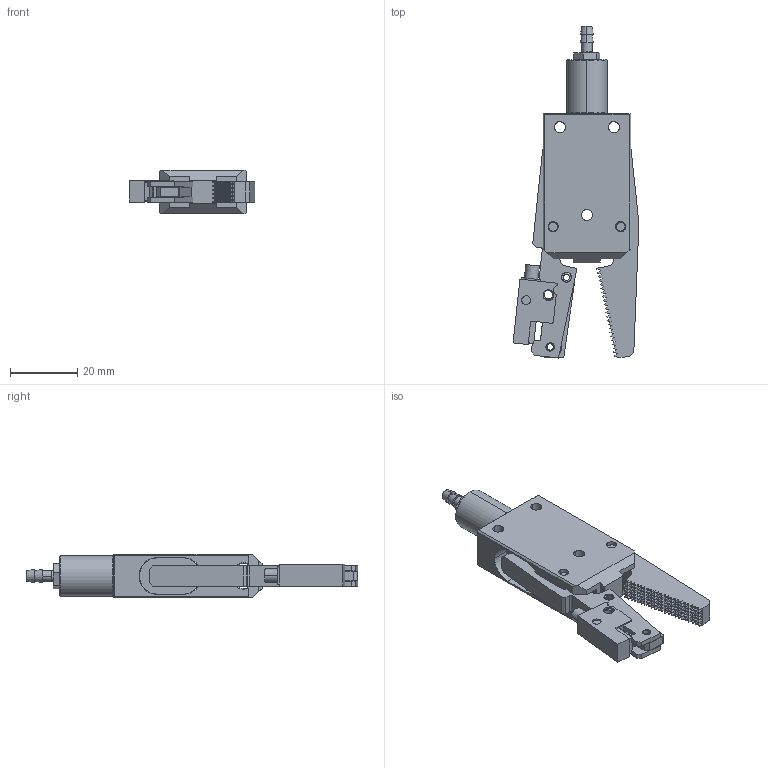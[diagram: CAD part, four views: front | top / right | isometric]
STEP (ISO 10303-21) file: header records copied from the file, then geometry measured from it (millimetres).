
FILE_DESCRIPTION (( 'STEP AP214' ), '1' );
FILE_NAME ('GRM12A-CN.STEP', '2019-11-12T02:29:32', ( '微软用户' ), ( '微软中国' ), 'SwSTEP 2.0', 'SolidWorks 2016', '' );
FILE_SCHEMA (( 'AUTOMOTIVE_DESIGN' ));
Length unit declared in the file: millimetre
Products named in the file (1): GRM12A-CN
Bounding box: 37.29 x 98.39 x 13 mm (x, y, z)
Volume: 16964 mm3; surface area: 14888 mm2
Topology: 13 solids, 13 shells, 1040 faces, 2408 edges, 1401 vertices
Faces by surface type: plane 850, cylinder 136, cone 32, bspline 22
Entity records: 40895 total; most frequent: CARTESIAN_POINT 5924, ORIENTED_EDGE 4808, DIRECTION 4721, EDGE_CURVE 2404, LINE 2015, VECTOR 2015, VERTEX_POINT 1401, AXIS2_PLACEMENT_3D 1353
